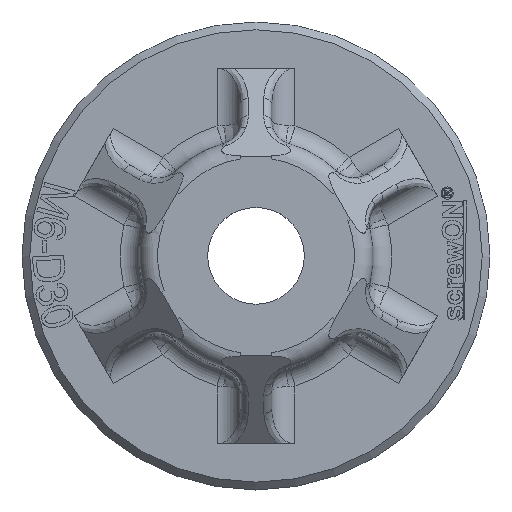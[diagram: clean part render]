
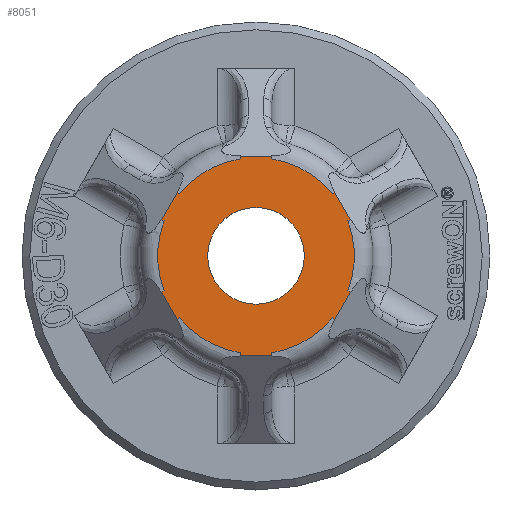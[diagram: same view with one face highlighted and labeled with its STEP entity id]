
A CAD part, top view. The second image highlights one B-rep face of the part: STEP entity #8051.
In plain terms, the highlighted planar face has unit normal (0, 0, 1).
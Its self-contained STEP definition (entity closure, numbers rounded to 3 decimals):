
#158=CIRCLE('',#8369,6.3);
#164=CIRCLE('',#8381,6.3);
#173=CIRCLE('',#8400,6.3);
#180=CIRCLE('',#8412,6.3);
#191=CIRCLE('',#8438,6.3);
#202=CIRCLE('',#8460,6.3);
#205=CIRCLE('',#8471,3.1);
#233=FACE_BOUND('',#1996,.T.);
#357=PLANE('',#8470);
#1512=FACE_OUTER_BOUND('',#1995,.T.);
#1995=EDGE_LOOP('',(#7467,#7468,#7469,#7470,#7471,#7472,#7473,#7474,#7475,
#7476,#7477,#7478,#7479,#7480,#7481,#7482,#7483,#7484,#7485,#7486,#7487,
#7488,#7489,#7490));
#1996=EDGE_LOOP('',(#7491));
#2456=LINE('',#14648,#3008);
#2473=LINE('',#15118,#3025);
#2486=LINE('',#15468,#3038);
#2495=LINE('',#15685,#3047);
#2512=LINE('',#16159,#3064);
#2525=LINE('',#16496,#3077);
#2546=LINE('',#17380,#3098);
#2547=LINE('',#17382,#3099);
#2548=LINE('',#17383,#3100);
#2549=LINE('',#17384,#3101);
#2550=LINE('',#17385,#3102);
#2551=LINE('',#17386,#3103);
#2552=LINE('',#17387,#3104);
#2553=LINE('',#17388,#3105);
#2554=LINE('',#17389,#3106);
#2555=LINE('',#17390,#3107);
#2556=LINE('',#17391,#3108);
#2557=LINE('',#17392,#3109);
#3008=VECTOR('',#9212,10.);
#3025=VECTOR('',#9295,10.);
#3038=VECTOR('',#9352,10.);
#3047=VECTOR('',#9383,10.);
#3064=VECTOR('',#9466,10.);
#3077=VECTOR('',#9523,10.);
#3098=VECTOR('',#9776,10.);
#3099=VECTOR('',#9779,10.);
#3100=VECTOR('',#9780,10.);
#3101=VECTOR('',#9781,10.);
#3102=VECTOR('',#9782,10.);
#3103=VECTOR('',#9783,10.);
#3104=VECTOR('',#9784,10.);
#3105=VECTOR('',#9785,10.);
#3106=VECTOR('',#9786,10.);
#3107=VECTOR('',#9787,10.);
#3108=VECTOR('',#9788,10.);
#3109=VECTOR('',#9789,10.);
#3742=VERTEX_POINT('',#14645);
#3743=VERTEX_POINT('',#14647);
#3783=VERTEX_POINT('',#15115);
#3784=VERTEX_POINT('',#15117);
#3815=VERTEX_POINT('',#15465);
#3816=VERTEX_POINT('',#15467);
#3838=VERTEX_POINT('',#15682);
#3839=VERTEX_POINT('',#15684);
#3879=VERTEX_POINT('',#16156);
#3880=VERTEX_POINT('',#16158);
#3911=VERTEX_POINT('',#16493);
#3912=VERTEX_POINT('',#16495);
#3920=VERTEX_POINT('',#16644);
#3921=VERTEX_POINT('',#16649);
#3926=VERTEX_POINT('',#16728);
#3927=VERTEX_POINT('',#16733);
#3934=VERTEX_POINT('',#16872);
#3935=VERTEX_POINT('',#16877);
#3938=VERTEX_POINT('',#16949);
#3939=VERTEX_POINT('',#16954);
#3950=VERTEX_POINT('',#17160);
#3951=VERTEX_POINT('',#17165);
#3958=VERTEX_POINT('',#17307);
#3959=VERTEX_POINT('',#17312);
#3962=VERTEX_POINT('',#17393);
#4776=EDGE_CURVE('',#3742,#3743,#2456,.T.);
#4838=EDGE_CURVE('',#3783,#3784,#2473,.T.);
#4884=EDGE_CURVE('',#3815,#3816,#2486,.T.);
#4914=EDGE_CURVE('',#3838,#3839,#2495,.T.);
#4976=EDGE_CURVE('',#3879,#3880,#2512,.T.);
#5022=EDGE_CURVE('',#3911,#3912,#2525,.T.);
#5044=EDGE_CURVE('',#3920,#3921,#158,.T.);
#5057=EDGE_CURVE('',#3926,#3927,#164,.T.);
#5078=EDGE_CURVE('',#3934,#3935,#173,.T.);
#5090=EDGE_CURVE('',#3938,#3939,#180,.T.);
#5120=EDGE_CURVE('',#3950,#3951,#191,.T.);
#5143=EDGE_CURVE('',#3958,#3959,#202,.T.);
#5152=EDGE_CURVE('',#3839,#3934,#2546,.T.);
#5153=EDGE_CURVE('',#3939,#3838,#2547,.T.);
#5154=EDGE_CURVE('',#3912,#3938,#2548,.T.);
#5155=EDGE_CURVE('',#3951,#3911,#2549,.T.);
#5156=EDGE_CURVE('',#3880,#3950,#2550,.T.);
#5157=EDGE_CURVE('',#3959,#3879,#2551,.T.);
#5158=EDGE_CURVE('',#3816,#3958,#2552,.T.);
#5159=EDGE_CURVE('',#3921,#3815,#2553,.T.);
#5160=EDGE_CURVE('',#3784,#3920,#2554,.T.);
#5161=EDGE_CURVE('',#3927,#3783,#2555,.T.);
#5162=EDGE_CURVE('',#3743,#3926,#2556,.T.);
#5163=EDGE_CURVE('',#3935,#3742,#2557,.T.);
#5164=EDGE_CURVE('',#3962,#3962,#205,.T.);
#7467=ORIENTED_EDGE('',*,*,#4914,.F.);
#7468=ORIENTED_EDGE('',*,*,#5153,.F.);
#7469=ORIENTED_EDGE('',*,*,#5090,.F.);
#7470=ORIENTED_EDGE('',*,*,#5154,.F.);
#7471=ORIENTED_EDGE('',*,*,#5022,.F.);
#7472=ORIENTED_EDGE('',*,*,#5155,.F.);
#7473=ORIENTED_EDGE('',*,*,#5120,.F.);
#7474=ORIENTED_EDGE('',*,*,#5156,.F.);
#7475=ORIENTED_EDGE('',*,*,#4976,.F.);
#7476=ORIENTED_EDGE('',*,*,#5157,.F.);
#7477=ORIENTED_EDGE('',*,*,#5143,.F.);
#7478=ORIENTED_EDGE('',*,*,#5158,.F.);
#7479=ORIENTED_EDGE('',*,*,#4884,.F.);
#7480=ORIENTED_EDGE('',*,*,#5159,.F.);
#7481=ORIENTED_EDGE('',*,*,#5044,.F.);
#7482=ORIENTED_EDGE('',*,*,#5160,.F.);
#7483=ORIENTED_EDGE('',*,*,#4838,.F.);
#7484=ORIENTED_EDGE('',*,*,#5161,.F.);
#7485=ORIENTED_EDGE('',*,*,#5057,.F.);
#7486=ORIENTED_EDGE('',*,*,#5162,.F.);
#7487=ORIENTED_EDGE('',*,*,#4776,.F.);
#7488=ORIENTED_EDGE('',*,*,#5163,.F.);
#7489=ORIENTED_EDGE('',*,*,#5078,.F.);
#7490=ORIENTED_EDGE('',*,*,#5152,.F.);
#7491=ORIENTED_EDGE('',*,*,#5164,.T.);
#8051=ADVANCED_FACE('',(#1512,#233),#357,.T.);
#8369=AXIS2_PLACEMENT_3D('',#16650,#9559,#9560);
#8381=AXIS2_PLACEMENT_3D('',#16734,#9584,#9585);
#8400=AXIS2_PLACEMENT_3D('',#16878,#9625,#9626);
#8412=AXIS2_PLACEMENT_3D('',#16955,#9649,#9650);
#8438=AXIS2_PLACEMENT_3D('',#17166,#9707,#9708);
#8460=AXIS2_PLACEMENT_3D('',#17313,#9754,#9755);
#8470=AXIS2_PLACEMENT_3D('',#17381,#9777,#9778);
#8471=AXIS2_PLACEMENT_3D('',#17394,#9790,#9791);
#9212=DIRECTION('',(0.5,-0.866,0.));
#9295=DIRECTION('',(-0.5,-0.866,0.));
#9352=DIRECTION('',(-1.,0.,0.));
#9383=DIRECTION('',(1.,0.,0.));
#9466=DIRECTION('',(-0.5,0.866,0.));
#9523=DIRECTION('',(0.5,0.866,0.));
#9559=DIRECTION('center_axis',(0.,0.,-1.));
#9560=DIRECTION('ref_axis',(-1.,0.,0.));
#9584=DIRECTION('center_axis',(0.,0.,-1.));
#9585=DIRECTION('ref_axis',(-1.,0.,0.));
#9625=DIRECTION('center_axis',(0.,0.,-1.));
#9626=DIRECTION('ref_axis',(-1.,0.,0.));
#9649=DIRECTION('center_axis',(0.,0.,-1.));
#9650=DIRECTION('ref_axis',(-1.,0.,0.));
#9707=DIRECTION('center_axis',(0.,0.,-1.));
#9708=DIRECTION('ref_axis',(-1.,0.,0.));
#9754=DIRECTION('center_axis',(0.,0.,-1.));
#9755=DIRECTION('ref_axis',(-1.,0.,0.));
#9776=DIRECTION('',(0.,-1.,0.));
#9777=DIRECTION('center_axis',(0.,0.,1.));
#9778=DIRECTION('ref_axis',(1.,0.,0.));
#9779=DIRECTION('',(0.,1.,0.));
#9780=DIRECTION('',(0.866,-0.5,0.));
#9781=DIRECTION('',(-0.866,0.5,0.));
#9782=DIRECTION('',(0.866,0.5,0.));
#9783=DIRECTION('',(-0.866,-0.5,0.));
#9784=DIRECTION('',(0.,1.,0.));
#9785=DIRECTION('',(0.,-1.,0.));
#9786=DIRECTION('',(-0.866,0.5,0.));
#9787=DIRECTION('',(0.866,-0.5,0.));
#9788=DIRECTION('',(-0.866,-0.5,0.));
#9789=DIRECTION('',(0.866,0.5,0.));
#9790=DIRECTION('center_axis',(0.,0.,-1.));
#9791=DIRECTION('ref_axis',(-1.,0.,0.));
#14645=CARTESIAN_POINT('',(5.043,4.066,6.1));
#14647=CARTESIAN_POINT('',(6.043,2.334,6.1));
#14648=CARTESIAN_POINT('',(5.293,3.633,6.1));
#15115=CARTESIAN_POINT('',(6.043,-2.334,6.1));
#15117=CARTESIAN_POINT('',(5.043,-4.066,6.1));
#15118=CARTESIAN_POINT('',(5.793,-2.767,6.1));
#15465=CARTESIAN_POINT('',(1.,-6.4,6.1));
#15467=CARTESIAN_POINT('',(-1.,-6.4,6.1));
#15468=CARTESIAN_POINT('',(0.5,-6.4,6.1));
#15682=CARTESIAN_POINT('',(-1.,6.4,6.1));
#15684=CARTESIAN_POINT('',(1.,6.4,6.1));
#15685=CARTESIAN_POINT('',(-0.5,6.4,6.1));
#16156=CARTESIAN_POINT('',(-5.043,-4.066,6.1));
#16158=CARTESIAN_POINT('',(-6.043,-2.334,6.1));
#16159=CARTESIAN_POINT('',(-5.293,-3.633,6.1));
#16493=CARTESIAN_POINT('',(-6.043,2.334,6.1));
#16495=CARTESIAN_POINT('',(-5.043,4.066,6.1));
#16496=CARTESIAN_POINT('',(-5.793,2.767,6.1));
#16644=CARTESIAN_POINT('',(4.887,-3.976,6.1));
#16649=CARTESIAN_POINT('',(1.,-6.22,6.1));
#16650=CARTESIAN_POINT('Origin',(0.,0.,6.1));
#16728=CARTESIAN_POINT('',(5.887,2.244,6.1));
#16733=CARTESIAN_POINT('',(5.887,-2.244,6.1));
#16734=CARTESIAN_POINT('Origin',(0.,0.,6.1));
#16872=CARTESIAN_POINT('',(1.,6.22,6.1));
#16877=CARTESIAN_POINT('',(4.887,3.976,6.1));
#16878=CARTESIAN_POINT('Origin',(0.,0.,6.1));
#16949=CARTESIAN_POINT('',(-4.887,3.976,6.1));
#16954=CARTESIAN_POINT('',(-1.,6.22,6.1));
#16955=CARTESIAN_POINT('Origin',(0.,0.,6.1));
#17160=CARTESIAN_POINT('',(-5.887,-2.244,6.1));
#17165=CARTESIAN_POINT('',(-5.887,2.244,6.1));
#17166=CARTESIAN_POINT('Origin',(0.,0.,6.1));
#17307=CARTESIAN_POINT('',(-1.,-6.22,6.1));
#17312=CARTESIAN_POINT('',(-4.887,-3.976,6.1));
#17313=CARTESIAN_POINT('Origin',(0.,0.,6.1));
#17380=CARTESIAN_POINT('',(1.,12.,6.1));
#17381=CARTESIAN_POINT('Origin',(0.,0.,6.1));
#17382=CARTESIAN_POINT('',(-1.,0.,6.1));
#17383=CARTESIAN_POINT('',(-9.892,6.866,6.1));
#17384=CARTESIAN_POINT('',(-0.5,-0.866,6.1));
#17385=CARTESIAN_POINT('',(-10.892,-5.134,6.1));
#17386=CARTESIAN_POINT('',(0.5,-0.866,6.1));
#17387=CARTESIAN_POINT('',(-1.,-12.,6.1));
#17388=CARTESIAN_POINT('',(1.,0.,6.1));
#17389=CARTESIAN_POINT('',(9.892,-6.866,6.1));
#17390=CARTESIAN_POINT('',(0.5,0.866,6.1));
#17391=CARTESIAN_POINT('',(10.892,5.134,6.1));
#17392=CARTESIAN_POINT('',(-0.5,0.866,6.1));
#17393=CARTESIAN_POINT('',(3.1,0.,6.1));
#17394=CARTESIAN_POINT('Origin',(0.,0.,6.1));
